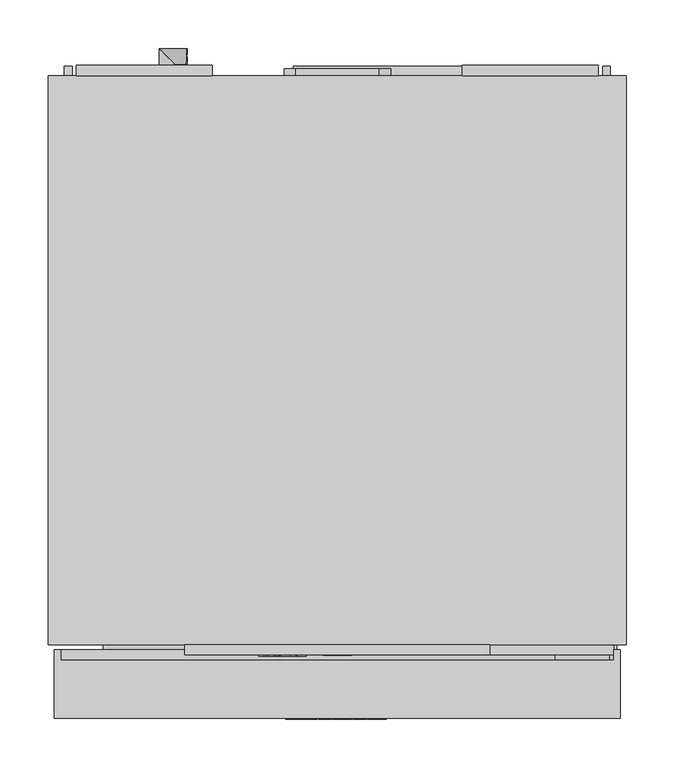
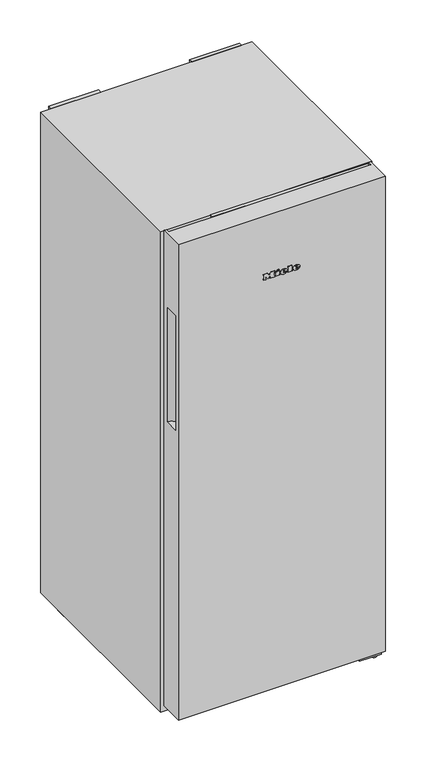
"""IFC4 building model written with IfcOpenShell, lengths in millimetres: proxy geometry, 12431410_EU1_FN4322D_WS : 37432284_EU1_12431410_FN4322D_WS."""

from ifc_helpers import new_model, si_unit, point, frame, frame_2d, origin, origin_with_axes, place, context, project, spatial, polyline, circle_curve, ellipse_curve, trimmed, segment, composite_curve, outline, extrude, faceted_brep, source, transform, mapped, element, save
from ifc_brep_helpers import plane_surface, cylinder_surface, revolved_surface, extruded_surface, advanced_brep


def specialty_equipment_c1b698a8(model_context):
    return source(origin(), model_context, "Body", "SolidModel", [
        extrude(outline(polyline([(15.0, -609.5), (-15.0, -609.5), (-15.0, -606.5), (15.0, -606.5), (15.0, -609.5)])), frame((0.0, 0.0, 1412.0), z_axis=(0.0, 0.0, 1.0), x_axis=(1.0, 0.0, 0.0)), (0.0, 0.0, 1.0), 28.0),
        extrude(outline(polyline([(1445.5, 105.0), (1445.5, -105.0), (1406.5, -105.0), (1406.5, 105.0), (1445.5, 105.0)]), holes=[polyline([(1440.0, -15.0), (1440.0, 15.0), (1412.0, 15.0), (1412.0, -15.0), (1440.0, -15.0)])]), frame((0.0, -608.5, 0.0), z_axis=(0.0, 1.0, 0.0), x_axis=(0.0, 0.0, 1.0)), (0.0, 0.0, 1.0), 2.0),
        faceted_brep([(157.5, -598.5, 1402.0), (157.5, -608.5, 1402.0), (-157.5, -608.5, 1402.0), (-157.5, -598.5, 1402.0), (157.5, -598.5, 1450.0), (-157.5, -598.5, 1450.0), (-157.5, -608.5, 1450.0), (157.5, -608.5, 1450.0), (-105.0, -608.5, 1445.5), (105.0, -608.5, 1445.5), (105.0, -608.5, 1406.5), (-105.0, -608.5, 1406.5), (105.0, -606.5, 1445.5), (-105.0, -606.5, 1445.5), (-105.0, -606.5, 1406.5), (105.0, -606.5, 1406.5)], [[[0, 1, 2, 3]], [[4, 5, 6, 7]], [[0, 3, 5, 4]], [[3, 2, 6, 5]], [[2, 1, 7, 6], [8, 9, 10, 11]], [[1, 0, 4, 7]], [[12, 13, 14, 15]], [[13, 12, 9, 8]], [[14, 13, 8, 11]], [[15, 14, 11, 10]], [[12, 15, 10, 9]]]),
        advanced_brep(
        [(39.0804776, -675.5, 1268.7956125), (39.0804776, -675.5, 1270.5126125), (50.4534776, -675.5, 1270.5126125), (30.6654776, -675.5, 1270.5126125), (35.3404776, -675.5, 1264.7666125), (50.1644776, -675.5, 1268.7956125), (45.0304776, -675.5, 1268.7956125), (40.9844776, -675.5, 1266.8916125), (39.0804776, -675.5, 1272.6886125), (39.0804776, -675.5, 1274.5416125), (41.9874776, -675.5, 1274.5416125), (41.9874776, -675.5, 1272.6886125), (39.0804776, -674.5, 1268.7956125), (40.9844776, -674.5, 1266.8916125), (45.0304776, -674.5, 1268.7956125), (50.1644776, -674.5, 1268.7956125), (35.3404776, -674.5, 1264.7666125), (30.6654776, -674.5, 1270.5126125), (50.4534776, -674.5, 1270.5126125), (39.0804776, -674.5, 1270.5126125), (39.0804776, -674.5, 1272.6886125), (41.9874776, -674.5, 1272.6886125), (41.9874776, -674.5, 1274.5416125), (39.0804776, -674.5, 1274.5416125)],
        [
            (0, 1),
            (1, 2),
            (2, 3, ellipse_curve(frame((40.5594776, -675.5, 1270.5126125), z_axis=(0.0, -1.0, 0.0), x_axis=(-1.0, 0.0, 0.0)), 9.894, 8.177)),
            (3, 4, circle_curve(frame((37.2445704, -675.5, 1271.0906125), z_axis=(0.0, -1.0, 0.0), x_axis=(0.0, 0.0, -1.0)), 6.6044337)),
            (4, 5, circle_curve(frame((40.361414, -675.5, 1275.5786125), z_axis=(0.0, -1.0, 0.0), x_axis=(0.0, 0.0, -1.0)), 11.9209541)),
            (5, 6),
            (6, 7, circle_curve(frame((41.8154776, -675.5, 1270.3766125), z_axis=(0.0, 1.0, 0.0), x_axis=(0.0, 0.0, -1.0)), 3.5827065)),
            (7, 0, circle_curve(frame((40.9844776, -675.5, 1268.7956125), z_axis=(0.0, 1.0, 0.0), x_axis=(0.0, 0.0, -1.0)), 1.904)),
            (8, 9),
            (9, 10, circle_curve(frame((40.5339776, -675.5, 1274.5416125), z_axis=(0.0, 1.0, 0.0), x_axis=(0.0, 0.0, -1.0)), 1.4535)),
            (10, 11),
            (11, 8),
            (12, 13, circle_curve(frame((40.9844776, -674.5, 1268.7956125), z_axis=(0.0, -1.0, 0.0), x_axis=(0.0, 0.0, -1.0)), 1.904)),
            (13, 14, circle_curve(frame((41.8154776, -674.5, 1270.3766125), z_axis=(0.0, -1.0, 0.0), x_axis=(0.0, 0.0, -1.0)), 3.5827065)),
            (14, 15),
            (15, 16, circle_curve(frame((40.361414, -674.5, 1275.5786125), z_axis=(0.0, 1.0, 0.0), x_axis=(0.0, 0.0, -1.0)), 11.9209541)),
            (16, 17, circle_curve(frame((37.2445704, -674.5, 1271.0906125), z_axis=(0.0, 1.0, 0.0), x_axis=(0.0, 0.0, -1.0)), 6.6044337)),
            (17, 18, ellipse_curve(frame((40.5594776, -674.5, 1270.5126125), z_axis=(0.0, 1.0, 0.0), x_axis=(-1.0, 0.0, 0.0)), 9.894, 8.177)),
            (18, 19),
            (19, 12),
            (20, 21),
            (21, 22),
            (22, 23, circle_curve(frame((40.5339776, -674.5, 1274.5416125), z_axis=(0.0, -1.0, 0.0), x_axis=(0.0, 0.0, -1.0)), 1.4535)),
            (23, 20),
            (0, 12),
            (19, 1),
            (18, 2),
            (5, 15),
            (14, 6),
            (17, 3),
            (13, 7),
            (16, 4),
            (8, 20),
            (23, 9),
            (22, 10),
            (21, 11),
        ],
        [
            plane_surface(frame((39.0804776, -675.5, 1270.5126125), z_axis=(0.0, -1.0, 0.0), x_axis=(0.0, 0.0, 1.0))),
            plane_surface(frame((39.0804776, -674.5, 1270.5126125), z_axis=(0.0, 1.0, 0.0), x_axis=(0.0, 0.0, -1.0))),
            plane_surface(frame((39.0804776, -675.5, 1268.7956125), z_axis=(1.0, 0.0, 0.0), x_axis=(0.0, 1.0, 0.0))),
            plane_surface(frame((39.0804776, -675.5, 1270.5126125), z_axis=(0.0, 0.0, -1.0), x_axis=(0.0, 1.0, 0.0))),
            plane_surface(frame((50.1644776, -675.5, 1268.7956125), z_axis=(0.0, 0.0, 1.0), x_axis=(0.0, 1.0, 0.0))),
            extruded_surface(trimmed(ellipse_curve(frame((40.5594776, -673.5, 1270.5126125), z_axis=(0.0, -1.0, 0.0), x_axis=(-1.0, 0.0, 0.0)), 9.894, 8.177), [point((50.4534776, -673.5, 1270.5126125))], [point((30.6654776, -673.5, 1270.5126125))], True, "CARTESIAN"), (0.0, -1.0, 0.0), 1.0),
            revolved_surface(polyline([(41.8154776, -674.5, 1266.7939059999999), (41.8154776, -675.5, 1266.7939059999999)]), (41.8154776, -674.5, 1270.3766125), (0.0, 1.0, 0.0)),
            revolved_surface(polyline([(40.9844776, -674.5, 1266.8916125), (40.9844776, -675.5, 1266.8916125)]), (40.9844776, -674.5, 1268.7956125), (0.0, 1.0, 0.0)),
            cylinder_surface(frame((37.2445704, -674.5, 1271.0906125), z_axis=(0.0, -1.0, 0.0), x_axis=(0.0, 0.0, -1.0)), 6.6044337),
            cylinder_surface(frame((40.361414, -674.5, 1275.5786125), z_axis=(0.0, -1.0, 0.0), x_axis=(0.0, 0.0, -1.0)), 11.9209541),
            plane_surface(frame((39.0804776, -675.5, 1272.6886125), z_axis=(1.0, 0.0, 0.0), x_axis=(0.0, 1.0, 0.0))),
            revolved_surface(polyline([(40.5339776, -674.5, 1273.0881124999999), (40.5339776, -675.5, 1273.0881124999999)]), (40.5339776, -674.5, 1274.5416125), (0.0, 1.0, 0.0)),
            plane_surface(frame((41.9874776, -675.5, 1274.5416125), z_axis=(-1.0, 0.0, 0.0), x_axis=(0.0, 1.0, 0.0))),
            plane_surface(frame((41.9874776, -675.5, 1272.6886125), z_axis=(0.0, 0.0, 1.0), x_axis=(0.0, 1.0, 0.0))),
        ],
        [
            (0, [[1, 2, 3, 4, 5, 6, 7, 8], [9, 10, 11, 12]]),
            (1, [[13, 14, 15, 16, 17, 18, 19, 20], [21, 22, 23, 24]]),
            (2, [[-1, 25, -20, 26]]),
            (3, [[-2, -26, -19, 27]]),
            (4, [[-6, 28, -15, 29]]),
            (5, [[-3, -27, -18, 30]]),
            (6, [[-7, -29, -14, 31]]),
            (7, [[-8, -31, -13, -25]]),
            (8, [[-4, -30, -17, 32]]),
            (9, [[-5, -32, -16, -28]]),
            (10, [[-9, 33, -24, 34]]),
            (11, [[-10, -34, -23, 35]]),
            (12, [[-11, -35, -22, 36]]),
            (13, [[-12, -36, -21, -33]]),
        ],
    ),
        advanced_brep(
        [(3.6014776, -675.5, 1268.7956125), (3.6014776, -675.5, 1270.5126125), (14.9744776, -675.5, 1270.5126125), (-4.8135224, -675.5, 1270.5126125), (-0.1385224, -675.5, 1264.7666125), (14.6854776, -675.5, 1268.7956125), (9.5514776, -675.5, 1268.7956125), (5.5054776, -675.5, 1266.8916125), (3.6014776, -675.5, 1272.6886125), (3.6014776, -675.5, 1274.5416125), (6.5084776, -675.5, 1274.5416125), (6.5084776, -675.5, 1272.6886125), (3.6014776, -674.5, 1268.7956125), (5.5054776, -674.5, 1266.8916125), (9.5514776, -674.5, 1268.7956125), (14.6854776, -674.5, 1268.7956125), (-0.1385224, -674.5, 1264.7666125), (-4.8135224, -674.5, 1270.5126125), (14.9744776, -674.5, 1270.5126125), (3.6014776, -674.5, 1270.5126125), (3.6014776, -674.5, 1272.6886125), (6.5084776, -674.5, 1272.6886125), (6.5084776, -674.5, 1274.5416125), (3.6014776, -674.5, 1274.5416125)],
        [
            (0, 1),
            (1, 2),
            (2, 3, ellipse_curve(frame((5.0804776, -675.5, 1270.5126125), z_axis=(0.0, -1.0, 0.0), x_axis=(-1.0, 0.0, 0.0)), 9.894, 8.177)),
            (3, 4, circle_curve(frame((1.7655704, -675.5, 1271.0906125), z_axis=(0.0, -1.0, 0.0), x_axis=(0.0, 0.0, -1.0)), 6.6044337)),
            (4, 5, circle_curve(frame((4.882414, -675.5, 1275.5786125), z_axis=(0.0, -1.0, 0.0), x_axis=(0.0, 0.0, -1.0)), 11.9209541)),
            (5, 6),
            (6, 7, circle_curve(frame((6.3364776, -675.5, 1270.3766125), z_axis=(0.0, 1.0, 0.0), x_axis=(0.0, 0.0, -1.0)), 3.5827065)),
            (7, 0, circle_curve(frame((5.5054776, -675.5, 1268.7956125), z_axis=(0.0, 1.0, 0.0), x_axis=(0.0, 0.0, -1.0)), 1.904)),
            (8, 9),
            (9, 10, circle_curve(frame((5.0549776, -675.5, 1274.5416125), z_axis=(0.0, 1.0, 0.0), x_axis=(0.0, 0.0, -1.0)), 1.4535)),
            (10, 11),
            (11, 8),
            (12, 13, circle_curve(frame((5.5054776, -674.5, 1268.7956125), z_axis=(0.0, -1.0, 0.0), x_axis=(0.0, 0.0, -1.0)), 1.904)),
            (13, 14, circle_curve(frame((6.3364776, -674.5, 1270.3766125), z_axis=(0.0, -1.0, 0.0), x_axis=(0.0, 0.0, -1.0)), 3.5827065)),
            (14, 15),
            (15, 16, circle_curve(frame((4.882414, -674.5, 1275.5786125), z_axis=(0.0, 1.0, 0.0), x_axis=(0.0, 0.0, -1.0)), 11.9209541)),
            (16, 17, circle_curve(frame((1.7655704, -674.5, 1271.0906125), z_axis=(0.0, 1.0, 0.0), x_axis=(0.0, 0.0, -1.0)), 6.6044337)),
            (17, 18, ellipse_curve(frame((5.0804776, -674.5, 1270.5126125), z_axis=(0.0, 1.0, 0.0), x_axis=(-1.0, 0.0, 0.0)), 9.894, 8.177)),
            (18, 19),
            (19, 12),
            (20, 21),
            (21, 22),
            (22, 23, circle_curve(frame((5.0549776, -674.5, 1274.5416125), z_axis=(0.0, -1.0, 0.0), x_axis=(0.0, 0.0, -1.0)), 1.4535)),
            (23, 20),
            (0, 12),
            (19, 1),
            (18, 2),
            (5, 15),
            (14, 6),
            (17, 3),
            (13, 7),
            (16, 4),
            (8, 20),
            (23, 9),
            (22, 10),
            (21, 11),
        ],
        [
            plane_surface(frame((3.6014776, -675.5, 1270.5126125), z_axis=(0.0, -1.0, 0.0), x_axis=(0.0, 0.0, 1.0))),
            plane_surface(frame((3.6014776, -674.5, 1270.5126125), z_axis=(0.0, 1.0, 0.0), x_axis=(0.0, 0.0, -1.0))),
            plane_surface(frame((3.6014776, -675.5, 1268.7956125), z_axis=(1.0, 0.0, 0.0), x_axis=(0.0, 1.0, 0.0))),
            plane_surface(frame((3.6014776, -675.5, 1270.5126125), z_axis=(0.0, 0.0, -1.0), x_axis=(0.0, 1.0, 0.0))),
            plane_surface(frame((14.6854776, -675.5, 1268.7956125), z_axis=(0.0, 0.0, 1.0), x_axis=(0.0, 1.0, 0.0))),
            extruded_surface(trimmed(ellipse_curve(frame((5.0804776, -673.5, 1270.5126125), z_axis=(0.0, -1.0, 0.0), x_axis=(-1.0, 0.0, 0.0)), 9.894, 8.177), [point((14.9744776, -673.5, 1270.5126125))], [point((-4.8135224, -673.5, 1270.5126125))], True, "CARTESIAN"), (0.0, -1.0, 0.0), 1.0),
            revolved_surface(polyline([(6.3364776, -674.5, 1266.7939059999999), (6.3364776, -675.5, 1266.7939059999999)]), (6.3364776, -674.5, 1270.3766125), (0.0, 1.0, 0.0)),
            revolved_surface(polyline([(5.5054776, -674.5, 1266.8916125), (5.5054776, -675.5, 1266.8916125)]), (5.5054776, -674.5, 1268.7956125), (0.0, 1.0, 0.0)),
            cylinder_surface(frame((1.7655704, -674.5, 1271.0906125), z_axis=(0.0, -1.0, 0.0), x_axis=(0.0, 0.0, -1.0)), 6.6044337),
            cylinder_surface(frame((4.882414, -674.5, 1275.5786125), z_axis=(0.0, -1.0, 0.0), x_axis=(0.0, 0.0, -1.0)), 11.9209541),
            plane_surface(frame((3.6014776, -675.5, 1272.6886125), z_axis=(1.0, 0.0, 0.0), x_axis=(0.0, 1.0, 0.0))),
            revolved_surface(polyline([(5.0549776, -674.5, 1273.0881124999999), (5.0549776, -675.5, 1273.0881124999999)]), (5.0549776, -674.5, 1274.5416125), (0.0, 1.0, 0.0)),
            plane_surface(frame((6.5084776, -675.5, 1274.5416125), z_axis=(-1.0, 0.0, 0.0), x_axis=(0.0, 1.0, 0.0))),
            plane_surface(frame((6.5084776, -675.5, 1272.6886125), z_axis=(0.0, 0.0, 1.0), x_axis=(0.0, 1.0, 0.0))),
        ],
        [
            (0, [[1, 2, 3, 4, 5, 6, 7, 8], [9, 10, 11, 12]]),
            (1, [[13, 14, 15, 16, 17, 18, 19, 20], [21, 22, 23, 24]]),
            (2, [[-1, 25, -20, 26]]),
            (3, [[-2, -26, -19, 27]]),
            (4, [[-6, 28, -15, 29]]),
            (5, [[-3, -27, -18, 30]]),
            (6, [[-7, -29, -14, 31]]),
            (7, [[-8, -31, -13, -25]]),
            (8, [[-4, -30, -17, 32]]),
            (9, [[-5, -32, -16, -28]]),
            (10, [[-9, 33, -24, 34]]),
            (11, [[-10, -34, -23, 35]]),
            (12, [[-11, -35, -22, 36]]),
            (13, [[-12, -36, -21, -33]]),
        ],
    ),
        extrude(outline(polyline([(1280.7636125, -14.9795224), (1278.0096125, -13.6875224), (1280.6956125, -7.9245224), (1283.4496125, -9.1995224), (1280.7636125, -14.9795224)])), frame((0.0, -675.5, 0.0), z_axis=(0.0, 1.0, 0.0), x_axis=(0.0, 0.0, 1.0)), (0.0, 0.0, 1.0), 1.0),
        extrude(outline(polyline([(1277.6356125, -19.1785224), (1274.5926125, -19.1785224), (1274.5926125, -17.1555224), (1267.6226125, -17.1555224), (1267.6226125, -19.1785224), (1264.7666125, -19.1785224), (1264.7666125, -5.7655224), (1267.6226125, -5.7655224), (1267.6226125, -7.7375224), (1277.6356125, -7.7375224), (1277.6356125, -19.1785224)])), frame((0.0, -675.5, 0.0), z_axis=(0.0, 1.0, 0.0), x_axis=(0.0, 0.0, 1.0)), (0.0, 0.0, 1.0), 1.0),
        extrude(outline(polyline([(1278.9956125, 15.9264776), (1278.9956125, 17.9664776), (1267.6226125, 17.9664776), (1267.6226125, 15.9264776), (1264.7666125, 15.9264776), (1264.7666125, 29.7134776), (1267.6226125, 29.7134776), (1267.6226125, 27.6224776), (1281.7666125, 27.6224776), (1281.7666125, 15.9264776), (1278.9956125, 15.9264776)])), frame((0.0, -675.5, 0.0), z_axis=(0.0, 1.0, 0.0), x_axis=(0.0, 0.0, 1.0)), (0.0, 0.0, 1.0), 1.0),
        extrude(outline(polyline([(1278.9956125, -53.0595224), (1278.9956125, -51.0025224), (1267.6226125, -51.0025224), (1267.6226125, -53.0595224), (1264.7666125, -53.0595224), (1264.7666125, -45.5795224), (1267.6226125, -45.5795224), (1267.6226125, -47.6195224), (1274.7967372, -47.6195224), (1264.7666125, -40.0205224), (1275.2068348, -32.3875224), (1267.6226125, -32.3875224), (1267.6226125, -34.4785224), (1264.7666125, -34.4785224), (1264.7666125, -20.9125224), (1267.6226125, -20.9125224), (1267.6226125, -23.0715224), (1278.9956125, -23.0715224), (1278.9956125, -20.9125224), (1281.7666125, -20.9125224), (1281.7666125, -31.2655224), (1275.3916125, -36.2295224), (1281.7666125, -41.2105224), (1281.7666125, -53.0595224), (1278.9956125, -53.0595224)])), frame((0.0, -675.5, 0.0), z_axis=(0.0, 1.0, 0.0), x_axis=(0.0, 0.0, 1.0)), (0.0, 0.0, 1.0), 1.0),
        advanced_brep(
        [(-37.64, -610.5, 1428.896), (-37.64, -610.5, 1429.704), (-32.288, -610.5, 1429.704), (-41.6, -610.5, 1429.704), (-39.4, -610.5, 1427.0), (-32.424, -610.5, 1428.896), (-34.84, -610.5, 1428.896), (-36.744, -610.5, 1428.0), (-37.64, -610.5, 1430.728), (-37.64, -610.5, 1431.6), (-36.272, -610.5, 1431.6), (-36.272, -610.5, 1430.728), (-37.64, -609.5, 1428.896), (-36.744, -609.5, 1428.0), (-34.84, -609.5, 1428.896), (-32.424, -609.5, 1428.896), (-39.4, -609.5, 1427.0), (-41.6, -609.5, 1429.704), (-32.288, -609.5, 1429.704), (-37.64, -609.5, 1429.704), (-37.64, -609.5, 1430.728), (-36.272, -609.5, 1430.728), (-36.272, -609.5, 1431.6), (-37.64, -609.5, 1431.6)],
        [
            (0, 1),
            (1, 2),
            (2, 3, ellipse_curve(frame((-36.944, -610.5, 1429.704), z_axis=(0.0, -1.0, 0.0), x_axis=(-1.0, 0.0, 0.0)), 4.656, 3.848)),
            (3, 4, circle_curve(frame((-38.5039564, -610.5, 1429.976), z_axis=(0.0, -1.0, 0.0), x_axis=(0.0, 0.0, -1.0)), 3.1079688)),
            (4, 5, circle_curve(frame((-37.0372064, -610.5, 1432.088), z_axis=(0.0, -1.0, 0.0), x_axis=(0.0, 0.0, -1.0)), 5.6098607)),
            (5, 6),
            (6, 7, circle_curve(frame((-36.3529412, -610.5, 1429.64), z_axis=(0.0, 1.0, 0.0), x_axis=(0.0, 0.0, -1.0)), 1.6859795)),
            (7, 0, circle_curve(frame((-36.744, -610.5, 1428.896), z_axis=(0.0, 1.0, 0.0), x_axis=(0.0, 0.0, -1.0)), 0.896)),
            (8, 9),
            (9, 10, circle_curve(frame((-36.956, -610.5, 1431.6), z_axis=(0.0, 1.0, 0.0), x_axis=(0.0, 0.0, -1.0)), 0.684)),
            (10, 11),
            (11, 8),
            (12, 13, circle_curve(frame((-36.744, -609.5, 1428.896), z_axis=(0.0, -1.0, 0.0), x_axis=(0.0, 0.0, -1.0)), 0.896)),
            (13, 14, circle_curve(frame((-36.3529412, -609.5, 1429.64), z_axis=(0.0, -1.0, 0.0), x_axis=(0.0, 0.0, -1.0)), 1.6859795)),
            (14, 15),
            (15, 16, circle_curve(frame((-37.0372064, -609.5, 1432.088), z_axis=(0.0, 1.0, 0.0), x_axis=(0.0, 0.0, -1.0)), 5.6098607)),
            (16, 17, circle_curve(frame((-38.5039564, -609.5, 1429.976), z_axis=(0.0, 1.0, 0.0), x_axis=(0.0, 0.0, -1.0)), 3.1079688)),
            (17, 18, ellipse_curve(frame((-36.944, -609.5, 1429.704), z_axis=(0.0, 1.0, 0.0), x_axis=(-1.0, 0.0, 0.0)), 4.656, 3.848)),
            (18, 19),
            (19, 12),
            (20, 21),
            (21, 22),
            (22, 23, circle_curve(frame((-36.956, -609.5, 1431.6), z_axis=(0.0, -1.0, 0.0), x_axis=(0.0, 0.0, -1.0)), 0.684)),
            (23, 20),
            (0, 12),
            (19, 1),
            (18, 2),
            (5, 15),
            (14, 6),
            (17, 3),
            (13, 7),
            (16, 4),
            (8, 20),
            (23, 9),
            (22, 10),
            (21, 11),
        ],
        [
            plane_surface(frame((-37.64, -610.5, 1429.704), z_axis=(0.0, -1.0, 0.0), x_axis=(0.0, 0.0, 1.0))),
            plane_surface(frame((-37.64, -609.5, 1429.704), z_axis=(0.0, 1.0, 0.0), x_axis=(0.0, 0.0, -1.0))),
            plane_surface(frame((-37.64, -610.5, 1428.896), z_axis=(1.0, 0.0, 0.0), x_axis=(0.0, 1.0, 0.0))),
            plane_surface(frame((-37.64, -610.5, 1429.704), z_axis=(0.0, 0.0, -1.0), x_axis=(0.0, 1.0, 0.0))),
            plane_surface(frame((-32.424, -610.5, 1428.896), z_axis=(0.0, 0.0, 1.0), x_axis=(0.0, 1.0, 0.0))),
            extruded_surface(trimmed(ellipse_curve(frame((-36.944, -608.5, 1429.704), z_axis=(0.0, -1.0, 0.0), x_axis=(-1.0, 0.0, 0.0)), 4.656, 3.848), [point((-32.288, -608.5, 1429.704))], [point((-41.6, -608.5, 1429.704))], True, "CARTESIAN"), (0.0, -1.0, 0.0), 1.0),
            revolved_surface(polyline([(-36.3529412, -609.5, 1427.9540205), (-36.3529412, -610.5, 1427.9540205)]), (-36.3529412, -609.5, 1429.64), (0.0, 1.0, 0.0)),
            revolved_surface(polyline([(-36.744, -609.5, 1428.0), (-36.744, -610.5, 1428.0)]), (-36.744, -609.5, 1428.896), (0.0, 1.0, 0.0)),
            cylinder_surface(frame((-38.5039564, -609.5, 1429.976), z_axis=(0.0, -1.0, 0.0), x_axis=(0.0, 0.0, -1.0)), 3.1079688),
            cylinder_surface(frame((-37.0372064, -609.5, 1432.088), z_axis=(0.0, -1.0, 0.0), x_axis=(0.0, 0.0, -1.0)), 5.6098607),
            plane_surface(frame((-37.64, -610.5, 1430.728), z_axis=(1.0, 0.0, 0.0), x_axis=(0.0, 1.0, 0.0))),
            revolved_surface(polyline([(-36.956, -609.5, 1430.916), (-36.956, -610.5, 1430.916)]), (-36.956, -609.5, 1431.6), (0.0, 1.0, 0.0)),
            plane_surface(frame((-36.272, -610.5, 1431.6), z_axis=(-1.0, 0.0, 0.0), x_axis=(0.0, 1.0, 0.0))),
            plane_surface(frame((-36.272, -610.5, 1430.728), z_axis=(0.0, 0.0, 1.0), x_axis=(0.0, 1.0, 0.0))),
        ],
        [
            (0, [[1, 2, 3, 4, 5, 6, 7, 8], [9, 10, 11, 12]]),
            (1, [[13, 14, 15, 16, 17, 18, 19, 20], [21, 22, 23, 24]]),
            (2, [[-1, 25, -20, 26]]),
            (3, [[-2, -26, -19, 27]]),
            (4, [[-6, 28, -15, 29]]),
            (5, [[-3, -27, -18, 30]]),
            (6, [[-7, -29, -14, 31]]),
            (7, [[-8, -31, -13, -25]]),
            (8, [[-4, -30, -17, 32]]),
            (9, [[-5, -32, -16, -28]]),
            (10, [[-9, 33, -24, 34]]),
            (11, [[-10, -34, -23, 35]]),
            (12, [[-11, -35, -22, 36]]),
            (13, [[-12, -36, -21, -33]]),
        ],
    ),
        advanced_brep(
        [(-54.336, -610.5, 1428.896), (-54.336, -610.5, 1429.704), (-48.984, -610.5, 1429.704), (-58.296, -610.5, 1429.704), (-56.096, -610.5, 1427.0), (-49.12, -610.5, 1428.896), (-51.536, -610.5, 1428.896), (-53.44, -610.5, 1428.0), (-54.336, -610.5, 1430.728), (-54.336, -610.5, 1431.6), (-52.968, -610.5, 1431.6), (-52.968, -610.5, 1430.728), (-54.336, -609.5, 1428.896), (-53.44, -609.5, 1428.0), (-51.536, -609.5, 1428.896), (-49.12, -609.5, 1428.896), (-56.096, -609.5, 1427.0), (-58.296, -609.5, 1429.704), (-48.984, -609.5, 1429.704), (-54.336, -609.5, 1429.704), (-54.336, -609.5, 1430.728), (-52.968, -609.5, 1430.728), (-52.968, -609.5, 1431.6), (-54.336, -609.5, 1431.6)],
        [
            (0, 1),
            (1, 2),
            (2, 3, ellipse_curve(frame((-53.64, -610.5, 1429.704), z_axis=(0.0, -1.0, 0.0), x_axis=(-1.0, 0.0, 0.0)), 4.656, 3.848)),
            (3, 4, circle_curve(frame((-55.1999564, -610.5, 1429.976), z_axis=(0.0, -1.0, 0.0), x_axis=(0.0, 0.0, -1.0)), 3.1079688)),
            (4, 5, circle_curve(frame((-53.7332064, -610.5, 1432.088), z_axis=(0.0, -1.0, 0.0), x_axis=(0.0, 0.0, -1.0)), 5.6098607)),
            (5, 6),
            (6, 7, circle_curve(frame((-53.0489412, -610.5, 1429.64), z_axis=(0.0, 1.0, 0.0), x_axis=(0.0, 0.0, -1.0)), 1.6859795)),
            (7, 0, circle_curve(frame((-53.44, -610.5, 1428.896), z_axis=(0.0, 1.0, 0.0), x_axis=(0.0, 0.0, -1.0)), 0.896)),
            (8, 9),
            (9, 10, circle_curve(frame((-53.652, -610.5, 1431.6), z_axis=(0.0, 1.0, 0.0), x_axis=(0.0, 0.0, -1.0)), 0.684)),
            (10, 11),
            (11, 8),
            (12, 13, circle_curve(frame((-53.44, -609.5, 1428.896), z_axis=(0.0, -1.0, 0.0), x_axis=(0.0, 0.0, -1.0)), 0.896)),
            (13, 14, circle_curve(frame((-53.0489412, -609.5, 1429.64), z_axis=(0.0, -1.0, 0.0), x_axis=(0.0, 0.0, -1.0)), 1.6859795)),
            (14, 15),
            (15, 16, circle_curve(frame((-53.7332064, -609.5, 1432.088), z_axis=(0.0, 1.0, 0.0), x_axis=(0.0, 0.0, -1.0)), 5.6098607)),
            (16, 17, circle_curve(frame((-55.1999564, -609.5, 1429.976), z_axis=(0.0, 1.0, 0.0), x_axis=(0.0, 0.0, -1.0)), 3.1079688)),
            (17, 18, ellipse_curve(frame((-53.64, -609.5, 1429.704), z_axis=(0.0, 1.0, 0.0), x_axis=(-1.0, 0.0, 0.0)), 4.656, 3.848)),
            (18, 19),
            (19, 12),
            (20, 21),
            (21, 22),
            (22, 23, circle_curve(frame((-53.652, -609.5, 1431.6), z_axis=(0.0, -1.0, 0.0), x_axis=(0.0, 0.0, -1.0)), 0.684)),
            (23, 20),
            (0, 12),
            (19, 1),
            (18, 2),
            (5, 15),
            (14, 6),
            (17, 3),
            (13, 7),
            (16, 4),
            (8, 20),
            (23, 9),
            (22, 10),
            (21, 11),
        ],
        [
            plane_surface(frame((-54.336, -610.5, 1429.704), z_axis=(0.0, -1.0, 0.0), x_axis=(0.0, 0.0, 1.0))),
            plane_surface(frame((-54.336, -609.5, 1429.704), z_axis=(0.0, 1.0, 0.0), x_axis=(0.0, 0.0, -1.0))),
            plane_surface(frame((-54.336, -610.5, 1428.896), z_axis=(1.0, 0.0, 0.0), x_axis=(0.0, 1.0, 0.0))),
            plane_surface(frame((-54.336, -610.5, 1429.704), z_axis=(0.0, 0.0, -1.0), x_axis=(0.0, 1.0, 0.0))),
            plane_surface(frame((-49.12, -610.5, 1428.896), z_axis=(0.0, 0.0, 1.0), x_axis=(0.0, 1.0, 0.0))),
            extruded_surface(trimmed(ellipse_curve(frame((-53.64, -608.5, 1429.704), z_axis=(0.0, -1.0, 0.0), x_axis=(-1.0, 0.0, 0.0)), 4.656, 3.848), [point((-48.984, -608.5, 1429.704))], [point((-58.296, -608.5, 1429.704))], True, "CARTESIAN"), (0.0, -1.0, 0.0), 1.0),
            revolved_surface(polyline([(-53.0489412, -609.5, 1427.9540205), (-53.0489412, -610.5, 1427.9540205)]), (-53.0489412, -609.5, 1429.64), (0.0, 1.0, 0.0)),
            revolved_surface(polyline([(-53.44, -609.5, 1428.0), (-53.44, -610.5, 1428.0)]), (-53.44, -609.5, 1428.896), (0.0, 1.0, 0.0)),
            cylinder_surface(frame((-55.1999564, -609.5, 1429.976), z_axis=(0.0, -1.0, 0.0), x_axis=(0.0, 0.0, -1.0)), 3.1079688),
            cylinder_surface(frame((-53.7332064, -609.5, 1432.088), z_axis=(0.0, -1.0, 0.0), x_axis=(0.0, 0.0, -1.0)), 5.6098607),
            plane_surface(frame((-54.336, -610.5, 1430.728), z_axis=(1.0, 0.0, 0.0), x_axis=(0.0, 1.0, 0.0))),
            revolved_surface(polyline([(-53.652, -609.5, 1430.916), (-53.652, -610.5, 1430.916)]), (-53.652, -609.5, 1431.6), (0.0, 1.0, 0.0)),
            plane_surface(frame((-52.968, -610.5, 1431.6), z_axis=(-1.0, 0.0, 0.0), x_axis=(0.0, 1.0, 0.0))),
            plane_surface(frame((-52.968, -610.5, 1430.728), z_axis=(0.0, 0.0, 1.0), x_axis=(0.0, 1.0, 0.0))),
        ],
        [
            (0, [[1, 2, 3, 4, 5, 6, 7, 8], [9, 10, 11, 12]]),
            (1, [[13, 14, 15, 16, 17, 18, 19, 20], [21, 22, 23, 24]]),
            (2, [[-1, 25, -20, 26]]),
            (3, [[-2, -26, -19, 27]]),
            (4, [[-6, 28, -15, 29]]),
            (5, [[-3, -27, -18, 30]]),
            (6, [[-7, -29, -14, 31]]),
            (7, [[-8, -31, -13, -25]]),
            (8, [[-4, -30, -17, 32]]),
            (9, [[-5, -32, -16, -28]]),
            (10, [[-9, 33, -24, 34]]),
            (11, [[-10, -34, -23, 35]]),
            (12, [[-11, -35, -22, 36]]),
            (13, [[-12, -36, -21, -33]]),
        ],
    ),
        extrude(outline(polyline([(1434.528, -63.08), (1433.232, -62.472), (1434.496, -59.76), (1435.792, -60.36), (1434.528, -63.08)])), frame((0.0, -610.5, 0.0), z_axis=(0.0, 1.0, 0.0), x_axis=(0.0, 0.0, 1.0)), (0.0, 0.0, 1.0), 1.0),
        extrude(outline(polyline([(1433.056, -65.056), (1431.624, -65.056), (1431.624, -64.104), (1428.344, -64.104), (1428.344, -65.056), (1427.0, -65.056), (1427.0, -58.744), (1428.344, -58.744), (1428.344, -59.672), (1433.056, -59.672), (1433.056, -65.056)])), frame((0.0, -610.5, 0.0), z_axis=(0.0, 1.0, 0.0), x_axis=(0.0, 0.0, 1.0)), (0.0, 0.0, 1.0), 1.0),
        extrude(outline(polyline([(1433.696, -48.536), (1433.696, -47.576), (1428.344, -47.576), (1428.344, -48.536), (1427.0, -48.536), (1427.0, -42.048), (1428.344, -42.048), (1428.344, -43.032), (1435.0, -43.032), (1435.0, -48.536), (1433.696, -48.536)])), frame((0.0, -610.5, 0.0), z_axis=(0.0, 1.0, 0.0), x_axis=(0.0, 0.0, 1.0)), (0.0, 0.0, 1.0), 1.0),
        extrude(outline(polyline([(1433.696, -81.0), (1433.696, -80.032), (1428.344, -80.032), (1428.344, -81.0), (1427.0, -81.0), (1427.0, -77.48), (1428.344, -77.48), (1428.344, -78.44), (1431.7471247, -78.44), (1427.0, -74.864), (1431.8152223, -71.272), (1428.344, -71.272), (1428.344, -72.256), (1427.0, -72.256), (1427.0, -65.872), (1428.344, -65.872), (1428.344, -66.888), (1433.696, -66.888), (1433.696, -65.872), (1435.0, -65.872), (1435.0, -70.744), (1432.0, -73.08), (1435.0, -75.424), (1435.0, -81.0), (1433.696, -81.0)])), frame((0.0, -610.5, 0.0), z_axis=(0.0, 1.0, 0.0), x_axis=(0.0, 0.0, 1.0)), (0.0, 0.0, 1.0), 1.0),
        extrude(outline(polyline([(-42.8527823, 0.0), (-48.1304417, 3.2708192), (-29.8908031, 3.2708192), (-34.9274229, 0.0), (-42.8527823, 0.0)])), frame((238.5469678, 0.0, 0.0), z_axis=(1.0, 0.0, 0.0), x_axis=(0.0, 1.0, 0.0)), (0.0, 0.0, 1.0), 15.1632647),
        extrude(outline(polyline([(-42.8527823, 0.0), (-48.1304417, 3.2708192), (-29.8908031, 3.2708192), (-34.9274229, 0.0), (-42.8527823, 0.0)])), frame((-253.7102325, 0.0, 0.0), z_axis=(1.0, 0.0, 0.0), x_axis=(0.0, 1.0, 0.0)), (0.0, 0.0, 1.0), 15.1632647),
        extrude(outline(polyline([(2.1227397, 65.0), (2.1227397, 75.045631), (9.343037, 75.045631), (9.343037, 73.7899271), (3.3784436, 73.7899271), (3.3784436, 70.8076304), (9.029111, 70.8076304), (9.029111, 69.5519266), (3.3784436, 69.5519266), (3.3784436, 66.2557039), (9.5, 66.2557039), (9.5, 65.0), (2.1227397, 65.0)])), frame((-156.0615355, 0.0, 0.0), z_axis=(1.0, 0.0, 0.0), x_axis=(0.0, 1.0, 0.0)), (0.0, 0.0, 1.0), 1.0),
        extrude(outline(polyline([(11.3835558, 65.0), (11.3835558, 75.045631), (12.6392597, 75.045631), (12.6392597, 66.2557039), (17.6620752, 66.2557039), (17.6620752, 65.0), (11.3835558, 65.0)])), frame((-156.0615355, 0.0, 0.0), z_axis=(1.0, 0.0, 0.0), x_axis=(0.0, 1.0, 0.0)), (0.0, 0.0, 1.0), 1.0),
        advanced_brep(
        [(-168.0615355, -10.5, 70.0), (-184.0615355, -10.5, 70.0), (-168.0615355, 1.5, 70.0), (-184.0615355, 17.5, 70.0), (-156.0615355, 1.5, 70.0), (-156.0615355, 17.5, 70.0)],
        [
            (0, 1, circle_curve(frame((-176.0615355, -10.5, 70.0), z_axis=(0.0, -1.0, 0.0), x_axis=(-1.0, 0.0, 0.0)), 8.0)),
            (1, 0, circle_curve(frame((-176.0615355, -10.5, 70.0), z_axis=(0.0, -1.0, 0.0), x_axis=(-1.0, 0.0, 0.0)), 8.0)),
            (0, 2),
            (2, 3, ellipse_curve(frame((-176.0615355, 9.5, 70.0), z_axis=(-0.7071067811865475, -0.7071067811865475, 0.0), x_axis=(0.7071067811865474, -0.7071067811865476, 0.0)), 11.3137085, 8.0)),
            (3, 1),
            (3, 2, ellipse_curve(frame((-176.0615355, 9.5, 70.0), z_axis=(-0.7071067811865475, -0.7071067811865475, 0.0), x_axis=(0.7071067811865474, -0.7071067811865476, 0.0)), 11.3137085, 8.0)),
            (4, 5, circle_curve(frame((-156.0615355, 9.5, 70.0), z_axis=(1.0, 0.0, 0.0), x_axis=(0.0, 1.0, 0.0)), 8.0)),
            (5, 4, circle_curve(frame((-156.0615355, 9.5, 70.0), z_axis=(1.0, 0.0, 0.0), x_axis=(0.0, 1.0, 0.0)), 8.0)),
            (2, 4),
            (5, 3),
        ],
        [
            plane_surface(frame((-176.0615355, -10.5, 0.0), z_axis=(0.0, -1.0, 0.0), x_axis=(0.0, 0.0, 1.0))),
            cylinder_surface(frame((-176.0615355, -10.5, 70.0), z_axis=(0.0, -1.0, 0.0), x_axis=(-1.0, 0.0, 0.0)), 8.0),
            plane_surface(frame((-156.0615355, 9.5, 0.0), z_axis=(1.0, 0.0, 0.0), x_axis=(0.0, 0.0, 1.0))),
            cylinder_surface(frame((-176.0615355, 9.5, 70.0), z_axis=(-1.0, 0.0, 0.0), x_axis=(0.0, 1.0, 0.0)), 8.0),
        ],
        [
            (0, [[1, 2]]),
            (1, [[-1, 3, 4, 5]]),
            (1, [[-2, -5, 6, -3]]),
            (2, [[7, 8]]),
            (3, [[-4, 9, -8, 10]]),
            (3, [[-6, -10, -7, -9]]),
        ],
    ),
        extrude(outline(polyline([(-118.9841834, 15.0), (-62.9841834, 15.0), (-75.5706779, 0.0), (-106.3976889, 0.0), (-118.9841834, 15.0)])), frame((-288.5, 0.0, 0.0), z_axis=(1.0, 0.0, 0.0), x_axis=(0.0, 1.0, 0.0)), (0.0, 0.0, 1.0), 16.0),
        extrude(outline(polyline([(-118.9841834, 15.0), (-62.9841834, 15.0), (-75.5706779, 0.0), (-106.3976889, 0.0), (-118.9841834, 15.0)])), frame((272.5, 0.0, 0.0), z_axis=(1.0, 0.0, 0.0), x_axis=(0.0, 1.0, 0.0)), (0.0, 0.0, 1.0), 16.0),
        extrude(outline(polyline([(281.8051758, -10.5), (274.2947998, -10.5), (274.2947998, -0.5), (281.8051758, -0.5), (281.8051758, -10.5)])), frame((0.0, 0.0, 239.4947815), z_axis=(0.0, 0.0, 1.0), x_axis=(1.0, 0.0, 0.0)), (0.0, 0.0, 1.0), 18.4103699),
        extrude(outline(polyline([(-274.0827332, -10.5), (-282.1051331, -10.5), (-282.1051331, -0.5), (-274.0827332, -0.5), (-274.0827332, -10.5)])), frame((0.0, 0.0, 239.4947815), z_axis=(0.0, 0.0, 1.0), x_axis=(1.0, 0.0, 0.0)), (0.0, 0.0, 1.0), 18.3224792),
        extrude(outline(polyline([(190.0, 177.5), (133.0, 177.5), (133.0, -45.5), (64.0, -45.5), (64.0, 258.5), (190.0, 258.5), (190.0, 177.5)])), frame((0.0, -10.5, 0.0), z_axis=(0.0, 1.0, 0.0), x_axis=(0.0, 0.0, 1.0)), (0.0, 0.0, 1.0), 10.0),
        extrude(outline(polyline([(269.5372046, -10.5), (129.0, -10.5), (129.0, 0.0), (269.5372046, 0.0), (269.5372046, -10.5)])), frame((0.0, 0.0, 1426.0), z_axis=(0.0, 0.0, 1.0), x_axis=(1.0, 0.0, 0.0)), (0.0, 0.0, 1.0), 24.0),
        extrude(outline(polyline([(-129.0, -10.5), (-269.5372046, -10.5), (-269.5372046, 0.0), (-129.0, 0.0), (-129.0, -10.5)])), frame((0.0, 0.0, 1426.0), z_axis=(0.0, 0.0, 1.0), x_axis=(1.0, 0.0, 0.0)), (0.0, 0.0, 1.0), 24.0),
        extrude(outline(polyline([(64.0, -159.5), (-64.0, -159.5), (-64.0, -71.5), (64.0, -71.5), (64.0, -159.5)])), frame((0.0, 0.0, 1236.0), z_axis=(0.0, 0.0, 1.0), x_axis=(1.0, 0.0, 0.0)), (0.0, 0.0, 1.0), 177.6535004),
        extrude(outline(polyline([(55.0, -521.5), (55.0, -575.5), (-55.0, -575.5), (-55.0, -521.5), (55.0, -521.5)])), frame((0.0, 0.0, 1359.0), z_axis=(0.0, 0.0, 1.0), x_axis=(1.0, 0.0, 0.0)), (0.0, 0.0, 1.0), 1.0),
        extrude(outline(composite_curve([segment(trimmed(circle_curve(frame_2d((-248.75, -584.5)), 10.0), [point((-258.75, -584.5))], [point((-238.75, -584.5))], False, "CARTESIAN"), True, "CONTINUOUS"), segment(trimmed(circle_curve(frame_2d((-248.75, -584.5)), 10.0), [point((-238.75, -584.5))], [point((-258.75, -584.5))], False, "CARTESIAN"), True, "CONTINUOUS")], self_intersect=False)), origin_with_axes(), (0.0, 0.0, 1.0), 15.0),
        extrude(outline(composite_curve([segment(trimmed(circle_curve(frame_2d((248.75, -584.4761218)), 10.0), [point((238.75, -584.4761218))], [point((258.75, -584.4761218))], False, "CARTESIAN"), True, "CONTINUOUS"), segment(trimmed(circle_curve(frame_2d((248.75, -584.4761218)), 10.0), [point((258.75, -584.4761218))], [point((238.75, -584.4761218))], False, "CARTESIAN"), True, "CONTINUOUS")], self_intersect=False)), origin_with_axes(), (0.0, 0.0, 1.0), 15.0),
        extrude(outline(polyline([(240.0, -290.5), (-240.0, -290.5), (-240.0, -71.5), (240.0, -71.5), (240.0, -290.5)])), frame((0.0, 0.0, 129.0), z_axis=(0.0, 0.0, 1.0), x_axis=(1.0, 0.0, 0.0)), (0.0, 0.0, 1.0), 190.0),
        extrude(outline(composite_curve([segment(trimmed(circle_curve(frame_2d((762.0, -43.0)), 12.0), [point((774.0, -43.0))], [point((762.0, -55.0))], False, "CARTESIAN"), True, "CONTINUOUS"), segment(polyline([(762.0, -55.0), (738.0, -55.0)]), True, "CONTINUOUS"), segment(trimmed(circle_curve(frame_2d((738.0, -43.0)), 12.0), [point((738.0, -55.0))], [point((726.0, -43.0))], False, "CARTESIAN"), True, "CONTINUOUS"), segment(polyline([(726.0, -43.0), (726.0, 43.0)]), True, "CONTINUOUS"), segment(trimmed(circle_curve(frame_2d((738.0, 43.0)), 12.0), [point((726.0, 43.0))], [point((738.0, 55.0))], False, "CARTESIAN"), True, "CONTINUOUS"), segment(polyline([(738.0, 55.0), (762.0, 55.0)]), True, "CONTINUOUS"), segment(trimmed(circle_curve(frame_2d((762.0, 43.0)), 12.0), [point((762.0, 55.0))], [point((774.0, 43.0))], False, "CARTESIAN"), True, "CONTINUOUS"), segment(polyline([(774.0, 43.0), (774.0, -43.0)]), True, "CONTINUOUS")], self_intersect=False)), frame((0.0, -10.5, 0.0), z_axis=(0.0, 1.0, 0.0), x_axis=(0.0, 0.0, 1.0)), (0.0, 0.0, 1.0), 7.0),
        extrude(outline(polyline([(272.5, -28.6436023), (272.5, -529.6387407), (-272.5, -529.6387407), (-272.5, -28.6436023), (272.5, -28.6436023)])), frame((0.0, 0.0, 3.2708192), z_axis=(0.0, 0.0, 1.0), x_axis=(1.0, 0.0, 0.0)), (0.0, 0.0, 1.0), 11.7291808),
        faceted_brep([(298.5, -10.5, 1450.0), (-298.5, -10.5, 1450.0), (-298.5, -598.5, 1450.0), (298.5, -598.5, 1450.0), (298.5, -10.5, 15.0), (298.5, -598.5, 15.0), (-298.5, -598.5, 15.0), (-298.5, -10.5, 15.0), (-240.0, -598.5, 1360.0), (240.0, -598.5, 1360.0), (240.0, -598.5, 129.0), (-240.0, -598.5, 129.0), (-240.0, -468.5, 1360.0), (240.0, -468.5, 1360.0), (240.0, -71.5, 129.0), (-240.0, -71.5, 129.0), (240.0, -71.5, 1413.6535004), (-240.0, -71.5, 1413.6535004), (-240.0, -468.5, 1413.6535004), (240.0, -468.5, 1413.6535004)], [[[0, 1, 2, 3]], [[4, 5, 6, 7]], [[1, 0, 4, 7]], [[2, 1, 7, 6]], [[3, 2, 6, 5], [8, 9, 10, 11]], [[0, 3, 5, 4]], [[9, 8, 12, 13]], [[14, 15, 11, 10]], [[15, 14, 16, 17]], [[15, 17, 18, 12, 8, 11]], [[16, 14, 10, 9, 13, 19]], [[19, 18, 17, 16]], [[18, 19, 13, 12]]]),
        extrude(outline(composite_curve([segment(trimmed(circle_curve(frame_2d((276.9539666, -644.7854989)), 7.0), [point((269.9539666, -644.7854989))], [point((283.9539666, -644.7854989))], False, "CARTESIAN"), True, "CONTINUOUS"), segment(trimmed(circle_curve(frame_2d((276.9539666, -644.7854989)), 7.0), [point((283.9539666, -644.7854989))], [point((269.9539666, -644.7854989))], False, "CARTESIAN"), True, "CONTINUOUS")], self_intersect=False)), frame((0.0, 0.0, 10.0), z_axis=(0.0, 0.0, 1.0), x_axis=(1.0, 0.0, 0.0)), (0.0, 0.0, 1.0), 11.0),
        extrude(outline(polyline([(291.8779467, -660.5), (227.8680756, -660.5), (227.8680756, -603.5), (291.8779467, -603.5), (291.8779467, -660.5)])), frame((0.0, 0.0, 31.5014777), z_axis=(0.0, 0.0, 1.0), x_axis=(1.0, 0.0, 0.0)), (0.0, 0.0, 1.0), 4.4985223),
        extrude(outline(composite_curve([segment(trimmed(circle_curve(frame_2d((274.5, -642.5)), 10.0), [point((264.5, -642.5))], [point((284.5, -642.5))], False, "CARTESIAN"), True, "CONTINUOUS"), segment(trimmed(circle_curve(frame_2d((274.5, -642.5)), 10.0), [point((284.5, -642.5))], [point((264.5, -642.5))], False, "CARTESIAN"), True, "CONTINUOUS")], self_intersect=False)), frame((0.0, 0.0, 27.0014777), z_axis=(0.0, 0.0, 1.0), x_axis=(1.0, 0.0, 0.0)), (0.0, 0.0, 1.0), 4.5),
        extrude(outline(polyline([(242.0, -603.5), (-242.0, -603.5), (-242.0, -598.5), (242.0, -598.5), (242.0, -603.5)])), frame((0.0, 0.0, 128.0014777), z_axis=(0.0, 0.0, 1.0), x_axis=(1.0, 0.0, 0.0)), (0.0, 0.0, 1.0), 1239.0),
        extrude(outline(polyline([(233.3907627, -657.6644264), (224.7217479, -608.5), (280.684623, -608.5), (282.5, -657.6644264), (233.3907627, -657.6644264)])), frame((0.0, 0.0, 1417.6745089), z_axis=(0.0, 0.0, 1.0), x_axis=(1.0, 0.0, 0.0)), (0.0, 0.0, 1.0), 23.7898602),
        extrude(outline(polyline([(285.5, -608.5), (157.5, -608.5), (157.5, -598.5), (285.5, -598.5), (285.5, -608.5)])), frame((0.0, 0.0, 1400.5014777), z_axis=(0.0, 0.0, 1.0), x_axis=(1.0, 0.0, 0.0)), (0.0, 0.0, 1.0), 48.0),
        extrude(outline(polyline([(-598.5, 21.0), (-660.5, 21.0), (-660.5, 27.0014777), (-603.5, 27.0014777), (-603.5, 69.0014777), (-598.5, 69.0014777), (-598.5, 21.0)])), frame((226.5, 0.0, 0.0), z_axis=(1.0, 0.0, 0.0), x_axis=(0.0, 1.0, 0.0)), (0.0, 0.0, 1.0), 62.0),
        advanced_brep(
        [(292.5, -674.5, 1454.0), (-292.5, -674.5, 1454.0), (-292.5, -674.5, 36.0), (292.5, -674.5, 36.0), (292.5, -603.5, 1454.0), (292.5, -603.5, 36.0), (222.5, -603.5, 36.0), (222.5, -603.5, 66.0), (-222.5, -603.5, 66.0), (-222.5, -603.5, 36.0), (-292.5, -603.5, 36.0), (-292.5, -603.5, 1454.0), (-285.5, -603.5, 1454.0), (-285.5, -603.5, 1397.0), (285.5, -603.5, 1397.0), (285.5, -603.5, 1454.0), (285.5, -614.5, 1454.0), (-285.5, -614.5, 1454.0), (-292.5, -660.2074562, 893.0), (-292.5, -620.2074562, 893.0), (-292.5, -620.2074562, 1234.0), (-292.5, -660.2074562, 1234.0), (-222.5, -645.4397305, 36.0), (222.5, -645.4397305, 36.0), (222.5, -617.5, 66.0), (-222.5, -617.5, 66.0), (285.5, -614.5, 1397.0), (-285.5, -614.5, 1397.0), (285.5, -614.5, 1448.5014777), (192.5, -614.5, 1448.5014777), (192.5, -614.5, 1400.5014777), (285.5, -614.5, 1400.5014777), (192.5, -660.3426016, 1448.5014777), (285.5, -660.3426016, 1448.5014777), (285.5, -660.3426016, 1400.5014777), (192.5, -660.3426016, 1400.5014777), (-272.5, -640.2074562, 893.0), (-272.5, -640.2074562, 1234.0)],
        [
            (0, 1),
            (1, 2),
            (2, 3),
            (3, 0),
            (4, 5),
            (5, 6),
            (6, 7),
            (7, 8),
            (8, 9),
            (9, 10),
            (10, 11),
            (11, 12),
            (12, 13),
            (13, 14),
            (14, 15),
            (15, 4),
            (0, 4),
            (15, 16),
            (16, 17),
            (17, 12),
            (11, 1),
            (10, 2),
            (18, 19),
            (19, 20),
            (20, 21),
            (21, 18),
            (9, 22),
            (22, 23),
            (23, 6),
            (5, 3),
            (24, 7),
            (23, 24, circle_curve(frame((222.5, -612.8834964, 33.6900621), z_axis=(-1.0, 0.0, 0.0), x_axis=(0.0, 1.0, 0.0)), 32.6380788)),
            (25, 22, circle_curve(frame((-222.5, -612.8834964, 33.6900621), z_axis=(1.0, 0.0, 0.0), x_axis=(0.0, 1.0, 0.0)), 32.6380788)),
            (8, 25),
            (25, 24),
            (26, 27),
            (27, 17),
            (16, 28),
            (28, 29),
            (29, 30),
            (30, 31),
            (31, 26),
            (26, 14),
            (13, 27),
            (32, 33),
            (33, 34),
            (34, 35),
            (35, 32),
            (35, 30),
            (29, 32),
            (34, 31),
            (33, 28),
            (18, 36, circle_curve(frame((-292.5, -640.2074562, 893.0), z_axis=(0.0, 0.0, 1.0), x_axis=(1.0, 0.0, 0.0)), 20.0)),
            (36, 19, circle_curve(frame((-292.5, -640.2074562, 893.0), z_axis=(0.0, 0.0, 1.0), x_axis=(1.0, 0.0, 0.0)), 20.0)),
            (20, 37, circle_curve(frame((-292.5, -640.2074562, 1234.0), z_axis=(0.0, 0.0, -1.0), x_axis=(1.0, 0.0, 0.0)), 20.0)),
            (37, 21, circle_curve(frame((-292.5, -640.2074562, 1234.0), z_axis=(0.0, 0.0, -1.0), x_axis=(1.0, 0.0, 0.0)), 20.0)),
            (37, 36),
        ],
        [
            plane_surface(frame((-292.5, -674.5, 1454.0), z_axis=(0.0, -1.0, 0.0), x_axis=(-1.0, 0.0, 0.0))),
            plane_surface(frame((-292.5, -603.5, 1454.0), z_axis=(0.0, 1.0, 0.0), x_axis=(1.0, 0.0, 0.0))),
            plane_surface(frame((292.5, -674.5, 1454.0), z_axis=(0.0, 0.0, 1.0), x_axis=(0.0, 1.0, 0.0))),
            plane_surface(frame((-292.5, -674.5, 1454.0), z_axis=(-1.0, 0.0, 0.0), x_axis=(0.0, 1.0, 0.0))),
            plane_surface(frame((-292.5, -674.5, 36.0), z_axis=(0.0, 0.0, -1.0), x_axis=(0.0, 1.0, 0.0))),
            plane_surface(frame((292.5, -674.5, 36.0), z_axis=(1.0, 0.0, 0.0), x_axis=(0.0, 1.0, 0.0))),
            plane_surface(frame((222.5, -580.2454176, 33.6900621), z_axis=(-1.0, 0.0, 0.0), x_axis=(0.0, 0.0, 1.0))),
            plane_surface(frame((-222.5, -580.2454176, 33.6900621), z_axis=(1.0, 0.0, 0.0), x_axis=(0.0, 0.0, -1.0))),
            revolved_surface(polyline([(222.5, -580.2454176, 33.6900621), (-222.5, -580.2454176, 33.6900621)]), (-222.5, -612.8834964, 33.6900621), (1.0, 0.0, 0.0)),
            plane_surface(frame((222.5, -603.5, 66.0), z_axis=(0.0, 0.0, -1.0), x_axis=(-1.0, 0.0, 0.0))),
            plane_surface(frame((285.5, -614.5, 1467.7474822), z_axis=(0.0, 1.0, 0.0), x_axis=(-1.0, 0.0, 0.0))),
            plane_surface(frame((285.5, -614.5, 1397.0), z_axis=(0.0, 0.0, 1.0), x_axis=(-1.0, 0.0, 0.0))),
            plane_surface(frame((-285.5, -603.5, 1397.0), z_axis=(1.0, 0.0, 0.0), x_axis=(0.0, 0.0, -1.0))),
            plane_surface(frame((192.5, -660.3426016, 1448.5014777), z_axis=(0.0, 1.0, 0.0), x_axis=(0.0, 0.0, -1.0))),
            plane_surface(frame((192.5, -660.3426016, 1448.5014777), z_axis=(1.0, 0.0, 0.0), x_axis=(0.0, 1.0, 0.0))),
            plane_surface(frame((192.5, -660.3426016, 1400.5014777), z_axis=(0.0, 0.0, 1.0), x_axis=(0.0, 1.0, 0.0))),
            plane_surface(frame((285.5, -660.3426016, 1400.5014777), z_axis=(-1.0, 0.0, 0.0), x_axis=(0.0, 1.0, 0.0))),
            plane_surface(frame((285.5, -660.3426016, 1448.5014777), z_axis=(0.0, 0.0, -1.0), x_axis=(0.0, 1.0, 0.0))),
            plane_surface(frame((-272.5, -640.2074562, 893.0), z_axis=(0.0, 0.0, 1.0), x_axis=(0.0, -1.0, 0.0))),
            plane_surface(frame((-272.5, -640.2074562, 1234.0), z_axis=(0.0, 0.0, -1.0), x_axis=(0.0, 1.0, 0.0))),
            revolved_surface(polyline([(-272.5, -640.2074562, 1234.0), (-272.5, -640.2074562, 893.0)]), (-292.5, -640.2074562, 893.0), (0.0, 0.0, 1.0)),
        ],
        [
            (0, [[1, 2, 3, 4]]),
            (1, [[5, 6, 7, 8, 9, 10, 11, 12, 13, 14, 15, 16]]),
            (2, [[-1, 17, -16, 18, 19, 20, -12, 21]]),
            (3, [[-2, -21, -11, 22], [23, 24, 25, 26]]),
            (4, [[-3, -22, -10, 27, 28, 29, -6, 30]]),
            (5, [[-4, -30, -5, -17]]),
            (6, [[31, -7, -29, 32]]),
            (7, [[33, -27, -9, 34]]),
            (8, [[-32, -28, -33, 35]]),
            (9, [[-31, -35, -34, -8]]),
            (10, [[36, 37, -19, 38, 39, 40, 41, 42]]),
            (11, [[43, -14, 44, -36]]),
            (12, [[-44, -13, -20, -37]]),
            (13, [[45, 46, 47, 48]]),
            (14, [[-48, 49, -40, 50]]),
            (15, [[-47, 51, -41, -49]]),
            (16, [[-46, 52, -38, -18, -15, -43, -42, -51]]),
            (17, [[-45, -50, -39, -52]]),
            (18, [[53, 54, -23]]),
            (19, [[55, 56, -25]]),
            (20, [[57, -53, -26, -56]]),
            (20, [[-57, -55, -24, -54]]),
        ],
    ),
    ])


if __name__ == "__main__":
    model = new_model("IFC4")
    model_context = context("Model", 3, world=origin())
    ifc_project = project(units=[si_unit("LENGTHUNIT", "METRE", prefix="MILLI")], contexts=[model_context])
    site = spatial("IfcSite", under=ifc_project)
    building = spatial("IfcBuilding", under=site)
    placement = place(None, origin())
    specialty_equipment_shape = specialty_equipment_c1b698a8(model_context)
    element("IfcBuildingElementProxy", 1, Name="12431410_EU1_FN4322D_WS : 37432284_EU1_12431410_FN4322D_WS", ObjectType="12431410_EU1_FN4322D_WS : 37432284_EU1_12431410_FN4322D_WS", at=placement, inside=building, context=model_context, shape_type="MappedRepresentation", body=[
        mapped(specialty_equipment_shape, transform((0.0, 0.0, 0.0), x_axis=(1.0, 0.0, 0.0), y_axis=(0.0, 1.0, 0.0), z_axis=(0.0, 0.0, 1.0))),
    ])
    save(model, "model.ifc")
